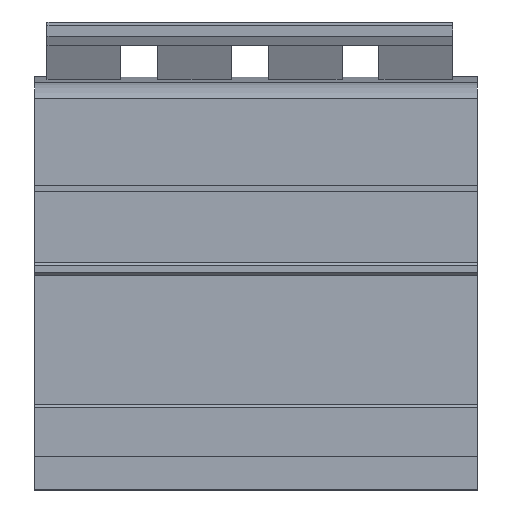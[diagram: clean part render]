
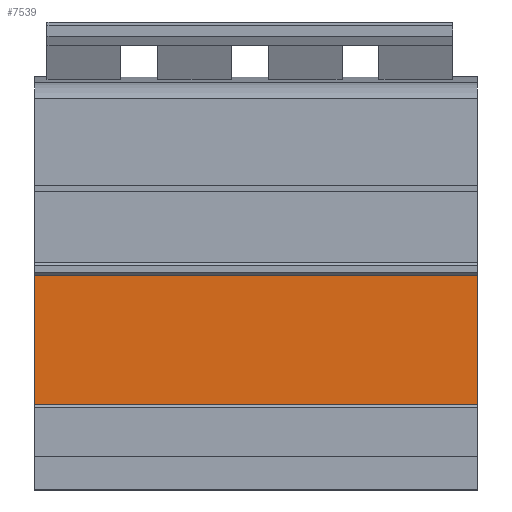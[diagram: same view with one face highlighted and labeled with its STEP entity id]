
A CAD part, front view. The second image highlights one B-rep face of the part: STEP entity #7539.
In plain terms, the highlighted planar face has unit normal (0, -1, 0).
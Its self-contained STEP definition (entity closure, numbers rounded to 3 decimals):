
#351=LINE('',#12321,#956);
#401=LINE('',#12956,#1006);
#445=LINE('',#13047,#1050);
#446=LINE('',#13049,#1051);
#956=VECTOR('',#9363,10.);
#1006=VECTOR('',#9867,10.);
#1050=VECTOR('',#9923,10.);
#1051=VECTOR('',#9926,10.);
#1956=FACE_OUTER_BOUND('',#2564,.T.);
#2564=EDGE_LOOP('',(#5956,#5957,#5958,#5959));
#3503=VERTEX_POINT('',#12318);
#3504=VERTEX_POINT('',#12320);
#3633=VERTEX_POINT('',#12953);
#3634=VERTEX_POINT('',#12955);
#4326=EDGE_CURVE('',#3503,#3504,#351,.T.);
#4500=EDGE_CURVE('',#3634,#3633,#401,.T.);
#4547=EDGE_CURVE('',#3633,#3504,#445,.T.);
#4548=EDGE_CURVE('',#3634,#3503,#446,.T.);
#5956=ORIENTED_EDGE('',*,*,#4500,.T.);
#5957=ORIENTED_EDGE('',*,*,#4547,.T.);
#5958=ORIENTED_EDGE('',*,*,#4326,.F.);
#5959=ORIENTED_EDGE('',*,*,#4548,.F.);
#7080=PLANE('',#8299);
#7539=ADVANCED_FACE('',(#1956),#7080,.T.);
#8299=AXIS2_PLACEMENT_3D('',#13048,#9924,#9925);
#9363=DIRECTION('',(0.,0.,-1.));
#9867=DIRECTION('',(0.,0.,-1.));
#9923=DIRECTION('',(1.,0.,0.));
#9924=DIRECTION('center_axis',(0.,-1.,0.));
#9925=DIRECTION('ref_axis',(0.,0.,-1.));
#9926=DIRECTION('',(1.,0.,0.));
#12318=CARTESIAN_POINT('',(72.,-45.21,5.279));
#12320=CARTESIAN_POINT('',(72.,-45.21,-15.833));
#12321=CARTESIAN_POINT('',(72.,-45.21,5.279));
#12953=CARTESIAN_POINT('',(0.,-45.21,-15.833));
#12955=CARTESIAN_POINT('',(0.,-45.21,5.279));
#12956=CARTESIAN_POINT('',(0.,-45.21,5.279));
#13047=CARTESIAN_POINT('',(0.,-45.21,-15.833));
#13048=CARTESIAN_POINT('Origin',(0.,-45.21,5.279));
#13049=CARTESIAN_POINT('',(0.,-45.21,5.279));
